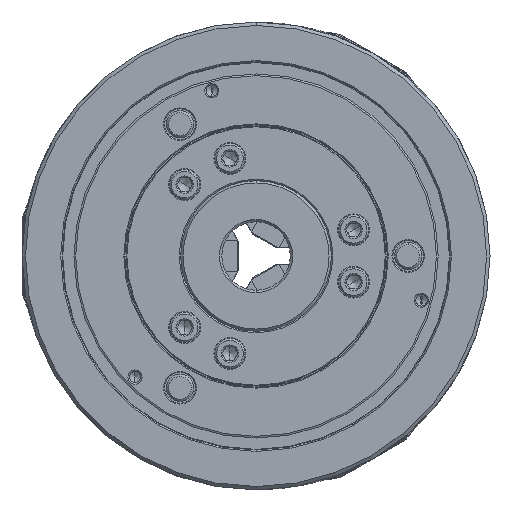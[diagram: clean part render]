
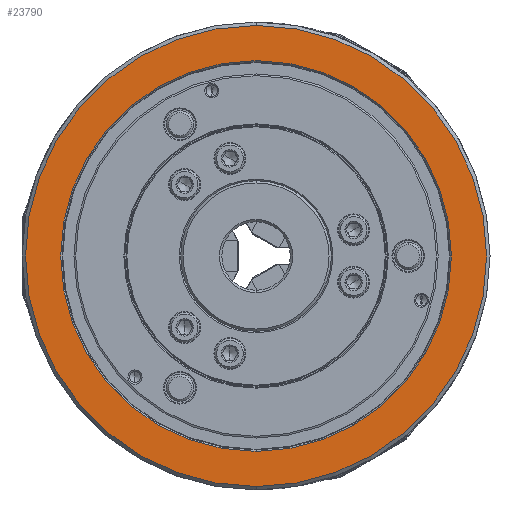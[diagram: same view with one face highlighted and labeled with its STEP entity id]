
A CAD part, left-side view. The second image highlights one B-rep face of the part: STEP entity #23790.
In plain terms, the highlighted planar face has unit normal (-1, 0, 0).
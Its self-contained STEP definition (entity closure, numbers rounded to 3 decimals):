
#3536 = DIRECTION ( 'NONE',  ( 0., 0., -1. ) ) ;
#3887 = VERTEX_POINT ( 'NONE', #52644 ) ;
#4376 = AXIS2_PLACEMENT_3D ( 'NONE', #8925, #59146, #30498 ) ;
#6756 = CARTESIAN_POINT ( 'NONE',  ( -91., 0., 0. ) ) ;
#7667 = DIRECTION ( 'NONE',  ( 1., 0., 0. ) ) ;
#8925 = CARTESIAN_POINT ( 'NONE',  ( -91., 0., 0. ) ) ;
#14995 = EDGE_CURVE ( 'NONE', #3887, #76539, #47793, .T. ) ;
#15465 = EDGE_CURVE ( 'NONE', #45379, #78961, #82244, .T. ) ;
#19433 = AXIS2_PLACEMENT_3D ( 'NONE', #76680, #55091, #69648 ) ;
#20334 = ORIENTED_EDGE ( 'NONE', *, *, #40252, .T. ) ;
#21113 = AXIS2_PLACEMENT_3D ( 'NONE', #34011, #62641, #3536 ) ;
#23790 = ADVANCED_FACE ( 'NONE', ( #40531, #69176 ), #25502, .T. ) ;
#25502 = PLANE ( 'NONE',  #19433 ) ;
#30498 = DIRECTION ( 'NONE',  ( 0., 0., -1. ) ) ;
#30765 = EDGE_LOOP ( 'NONE', ( #71089, #47734 ) ) ;
#32575 = CARTESIAN_POINT ( 'NONE',  ( -91., 0., 85.6 ) ) ;
#34011 = CARTESIAN_POINT ( 'NONE',  ( -91., 0., 0. ) ) ;
#34910 = DIRECTION ( 'NONE',  ( 0., 0., -1. ) ) ;
#37045 = CIRCLE ( 'NONE', #43101, 85.6 ) ;
#39485 = CARTESIAN_POINT ( 'NONE',  ( -91., 0., 101. ) ) ;
#40252 = EDGE_CURVE ( 'NONE', #78961, #45379, #37045, .T. ) ;
#40531 = FACE_BOUND ( 'NONE', #45632, .T. ) ;
#43101 = AXIS2_PLACEMENT_3D ( 'NONE', #90686, #76192, #63513 ) ;
#45379 = VERTEX_POINT ( 'NONE', #84159 ) ;
#45632 = EDGE_LOOP ( 'NONE', ( #20334, #77760 ) ) ;
#47734 = ORIENTED_EDGE ( 'NONE', *, *, #47943, .F. ) ;
#47793 = CIRCLE ( 'NONE', #71769, 101. ) ;
#47943 = EDGE_CURVE ( 'NONE', #76539, #3887, #67610, .T. ) ;
#52644 = CARTESIAN_POINT ( 'NONE',  ( -91., 0., -101. ) ) ;
#55091 = DIRECTION ( 'NONE',  ( -1., 0., 0. ) ) ;
#59146 = DIRECTION ( 'NONE',  ( 1., 0., 0. ) ) ;
#62641 = DIRECTION ( 'NONE',  ( 1., 0., 0. ) ) ;
#63513 = DIRECTION ( 'NONE',  ( 0., 0., -1. ) ) ;
#67610 = CIRCLE ( 'NONE', #21113, 101. ) ;
#69176 = FACE_OUTER_BOUND ( 'NONE', #30765, .T. ) ;
#69648 = DIRECTION ( 'NONE',  ( 0., 0., 1. ) ) ;
#71089 = ORIENTED_EDGE ( 'NONE', *, *, #14995, .F. ) ;
#71769 = AXIS2_PLACEMENT_3D ( 'NONE', #6756, #7667, #34910 ) ;
#76192 = DIRECTION ( 'NONE',  ( 1., 0., 0. ) ) ;
#76539 = VERTEX_POINT ( 'NONE', #39485 ) ;
#76680 = CARTESIAN_POINT ( 'NONE',  ( -91., 101., 0. ) ) ;
#77760 = ORIENTED_EDGE ( 'NONE', *, *, #15465, .T. ) ;
#78961 = VERTEX_POINT ( 'NONE', #32575 ) ;
#82244 = CIRCLE ( 'NONE', #4376, 85.6 ) ;
#84159 = CARTESIAN_POINT ( 'NONE',  ( -91., 0., -85.6 ) ) ;
#90686 = CARTESIAN_POINT ( 'NONE',  ( -91., 0., 0. ) ) ;
